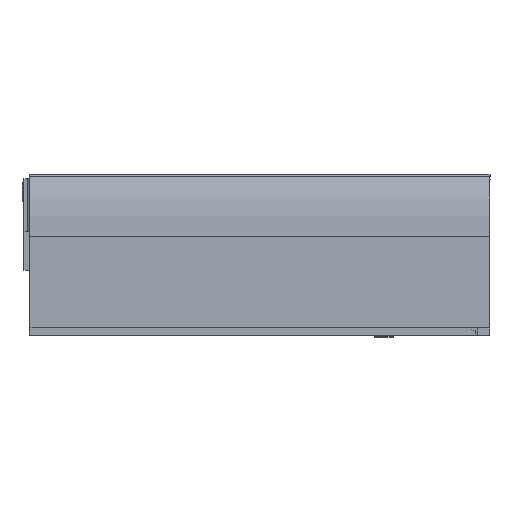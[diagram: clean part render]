
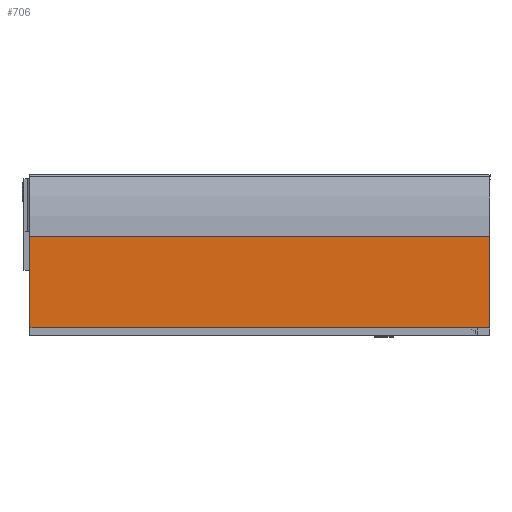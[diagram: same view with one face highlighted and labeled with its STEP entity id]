
A CAD part, left-side view. The second image highlights one B-rep face of the part: STEP entity #706.
In plain terms, the highlighted planar face has unit normal (-1, 0, 0).
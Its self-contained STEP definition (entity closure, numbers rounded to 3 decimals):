
#114 = VECTOR ( 'NONE', #1168, 1000. ) ;
#116 = LINE ( 'NONE', #1169, #114 ) ;
#143 = CIRCLE ( 'NONE', #2039, 1.001 ) ;
#146 = VECTOR ( 'NONE', #1210, 1000. ) ;
#147 = LINE ( 'NONE', #1211, #146 ) ;
#213 = VECTOR ( 'NONE', #1350, 1000. ) ;
#214 = LINE ( 'NONE', #1351, #213 ) ;
#298 = VECTOR ( 'NONE', #1575, 1000. ) ;
#300 = LINE ( 'NONE', #1577, #298 ) ;
#324 = FACE_OUTER_BOUND ( 'NONE', #497, .T. ) ;
#497 = EDGE_LOOP ( 'NONE', ( #2425, #2424, #2423, #2422, #2421, #2420 ) ) ;
#706 = ADVANCED_FACE ( 'NONE', ( #324 ), #1810, .T. ) ;
#834 = VERTEX_POINT ( 'NONE', #1772 ) ;
#901 = VERTEX_POINT ( 'NONE', #1753 ) ;
#1071 = DIRECTION ( 'NONE',  ( 0., 0., 1. ) ) ;
#1072 = CARTESIAN_POINT ( 'NONE',  ( -2.3, 347., -13.5 ) ) ;
#1168 = DIRECTION ( 'NONE',  ( 0., -0.94, -0.342 ) ) ;
#1169 = CARTESIAN_POINT ( 'NONE',  ( -2.3, 344.97, -13.5 ) ) ;
#1206 = DIRECTION ( 'NONE',  ( 0., 1., 0. ) ) ;
#1208 = DIRECTION ( 'NONE',  ( -1., 0., 0. ) ) ;
#1210 = DIRECTION ( 'NONE',  ( 0., -1., 0. ) ) ;
#1211 = CARTESIAN_POINT ( 'NONE',  ( -2.3, 144.577, 55.168 ) ) ;
#1224 = CARTESIAN_POINT ( 'NONE',  ( -2.3, 345.999, -12.06 ) ) ;
#1264 = VERTEX_POINT ( 'NONE', #1737 ) ;
#1275 = VERTEX_POINT ( 'NONE', #1736 ) ;
#1303 = VERTEX_POINT ( 'NONE', #1734 ) ;
#1350 = DIRECTION ( 'NONE',  ( 0., 0., 1. ) ) ;
#1351 = CARTESIAN_POINT ( 'NONE',  ( -2.3, 0., -13.5 ) ) ;
#1564 = VERTEX_POINT ( 'NONE', #1724 ) ;
#1575 = DIRECTION ( 'NONE',  ( 0., -1., 0. ) ) ;
#1577 = CARTESIAN_POINT ( 'NONE',  ( -2.3, 144.577, -13.5 ) ) ;
#1724 = CARTESIAN_POINT ( 'NONE',  ( -2.3, 346.341, -13.001 ) ) ;
#1734 = CARTESIAN_POINT ( 'NONE',  ( -2.3, 347., -12.06 ) ) ;
#1736 = CARTESIAN_POINT ( 'NONE',  ( -2.3, 0., -13.5 ) ) ;
#1737 = CARTESIAN_POINT ( 'NONE',  ( -2.3, 344.97, -13.5 ) ) ;
#1753 = CARTESIAN_POINT ( 'NONE',  ( -2.3, 0., 55.168 ) ) ;
#1772 = CARTESIAN_POINT ( 'NONE',  ( -2.3, 347., 55.168 ) ) ;
#1795 = DIRECTION ( 'NONE',  ( 0., 1., 0. ) ) ;
#1796 = DIRECTION ( 'NONE',  ( -1., 0., 0. ) ) ;
#1807 = CARTESIAN_POINT ( 'NONE',  ( -2.3, 144.577, -13.5 ) ) ;
#1810 = PLANE ( 'NONE',  #1955 ) ;
#1955 = AXIS2_PLACEMENT_3D ( 'NONE', #1807, #1796, #1795 ) ;
#2032 = EDGE_CURVE ( 'NONE', #1264, #1275, #300, .T. ) ;
#2039 = AXIS2_PLACEMENT_3D ( 'NONE', #1224, #1208, #1206 ) ;
#2420 = ORIENTED_EDGE ( 'NONE', *, *, #2032, .T. ) ;
#2421 = ORIENTED_EDGE ( 'NONE', *, *, #2561, .T. ) ;
#2422 = ORIENTED_EDGE ( 'NONE', *, *, #2549, .T. ) ;
#2423 = ORIENTED_EDGE ( 'NONE', *, *, #2590, .F. ) ;
#2424 = ORIENTED_EDGE ( 'NONE', *, *, #2548, .F. ) ;
#2425 = ORIENTED_EDGE ( 'NONE', *, *, #2511, .T. ) ;
#2452 = VECTOR ( 'NONE', #1071, 1000. ) ;
#2511 = EDGE_CURVE ( 'NONE', #1275, #901, #214, .T. ) ;
#2548 = EDGE_CURVE ( 'NONE', #834, #901, #147, .T. ) ;
#2549 = EDGE_CURVE ( 'NONE', #1303, #1564, #143, .T. ) ;
#2561 = EDGE_CURVE ( 'NONE', #1564, #1264, #116, .T. ) ;
#2590 = EDGE_CURVE ( 'NONE', #1303, #834, #2682, .T. ) ;
#2682 = LINE ( 'NONE', #1072, #2452 ) ;
